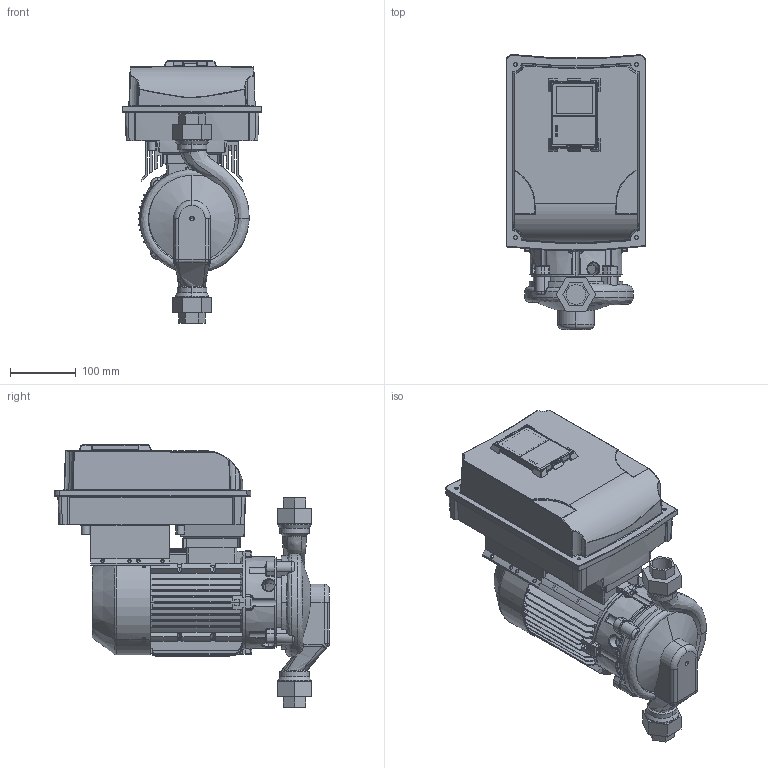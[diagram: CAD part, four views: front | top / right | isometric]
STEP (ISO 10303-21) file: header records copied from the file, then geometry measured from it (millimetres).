
FILE_DESCRIPTION(('STEP AP214'),'1');
FILE_NAME('export.stp','2018-06-01T09:48:49',(' '),(' '),'Spatial InterOp 3D',' ',' ');
FILE_SCHEMA(('AUTOMOTIVE_DESIGN { 1 0 10303 214 1 1 1 1 }'));
Length unit declared in the file: millimetre
Products named in the file (20): MS2_Vac20_KP80N12; MS2_bottom_final; DIN_966-M4x10; Jäähdytyslevy_M; DIN_966-M5x16; MS2_cover_final; 2xRJ45_liitin; Piirilevyn_pala; liitin_RJ45; Vacon_Text_Displa; CAD-3D-VACON-M100-Display.sldasm; 160018; 160002_Valu; V_MKP801N12VS; 160039___; 160040___; 160133; P101416; W_AE262650KPVS; V_PPAE26
Assembly tree (26 placements, depth 5):
  W_AE262650KPVS
    MS2_Vac20_KP80N12
      MS2_bottom_final
      DIN_966-M4x10  x2
      Jäähdytyslevy_M
      DIN_966-M5x16  x6
      MS2_cover_final
      2xRJ45_liitin
        Piirilevyn_pala
        liitin_RJ45  x2
      Vacon_Text_Displa
        CAD-3D-VACON-M100-Display.sldasm
      V_MKP801N12VS
        160018
          160002_Valu
        160039___
        160040___
        160133
      P101416
    V_PPAE26
Bounding box: 212.63 x 417.5 x 398.81 mm (x, y, z)
Volume: 3175628.3 mm3; surface area: 1378417.3 mm2
Topology: 20 solids, 1493 shells, 5387 faces, 17926 edges, 14014 vertices
Faces by surface type: bspline 1977, plane 1365, cylinder 1196, torus 462, cone 270, sphere 117
Entity records: 255548 total; most frequent: CARTESIAN_POINT 114447, ORIENTED_EDGE 27000, DIRECTION 17838, EDGE_CURVE 17322, VERTEX_POINT 13732, B_SPLINE_CURVE_WITH_KNOTS 8112, AXIS2_PLACEMENT_3D 6861, EDGE_LOOP 5654
